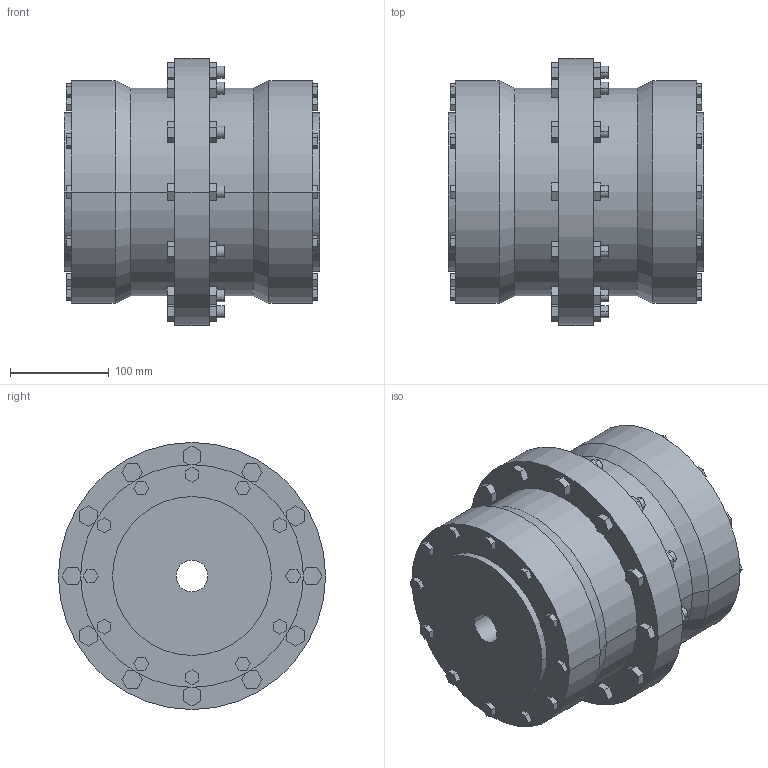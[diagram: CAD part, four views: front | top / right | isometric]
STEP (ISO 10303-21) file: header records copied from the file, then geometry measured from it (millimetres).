
FILE_DESCRIPTION((''),'2;1');
FILE_NAME('A18978600-0_ASM','2018-09-26T',('AB_Roschiwal'),('RENK AG'),'PRO/ENGINEER BY PARAMETRIC TECHNOLOGY CORPORATION, 2015440','PRO/ENGINEER BY PARAMETRIC TECHNOLOGY CORPORATION, 2015440','');
FILE_SCHEMA(('CONFIG_CONTROL_DESIGN'));
Length unit declared in the file: millimetre
Products named in the file (3): SBK100_GEHAEUSE; SBK100_NABE; A18978600-0_ASM
Assembly tree (3 placements, depth 2):
  A18978600-0_ASM
    SBK100_GEHAEUSE
    SBK100_NABE  x2
Bounding box: 258 x 270 x 270 mm (x, y, z)
Volume: 8666210.4 mm3; surface area: 703529.8 mm2
Topology: 3 solids, 3 shells, 422 faces, 1036 edges, 688 vertices
Faces by surface type: plane 362, cylinder 56, cone 4
Entity records: 12052 total; most frequent: CARTESIAN_POINT 2100, ORIENTED_EDGE 2024, DIRECTION 1940, EDGE_CURVE 1012, VECTOR 916, LINE 916, VERTEX_POINT 672, AXIS2_PLACEMENT_3D 512
